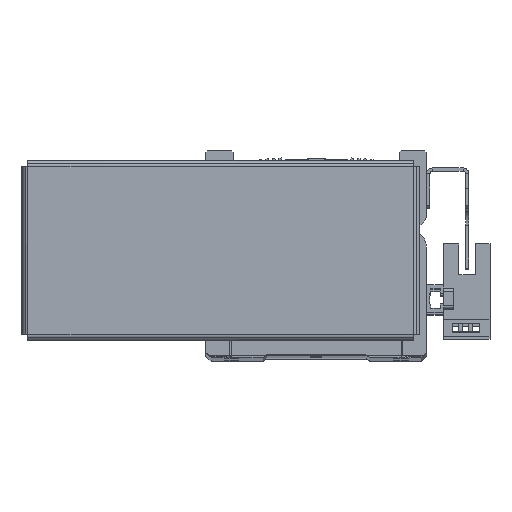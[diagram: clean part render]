
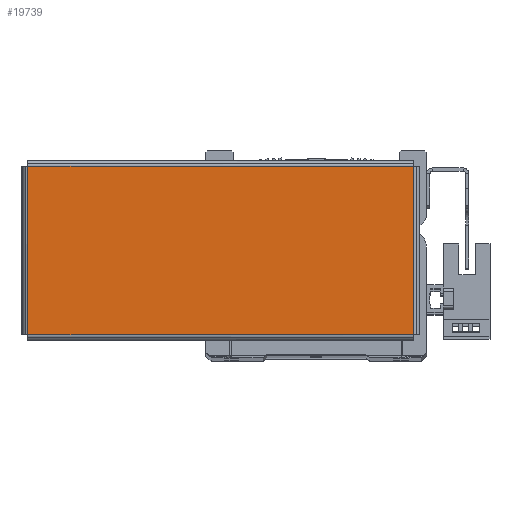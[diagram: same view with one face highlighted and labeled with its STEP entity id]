
A CAD part, top view. The second image highlights one B-rep face of the part: STEP entity #19739.
In plain terms, the highlighted planar face has unit normal (0, 0, 1) as drawn and (0, 0, -1) by its records, which use the part's own axes.
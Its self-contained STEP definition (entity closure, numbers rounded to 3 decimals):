
#360 = DIRECTION ( 'NONE',  ( 0., 0., 1. ) ) ;
#366 = PLANE ( 'NONE',  #42203 ) ;
#386 = CARTESIAN_POINT ( 'NONE',  ( 0., 0., -1. ) ) ;
#395 = DIRECTION ( 'NONE',  ( 1., 0., 0. ) ) ;
#2443 = VECTOR ( 'NONE', #3738, 1000. ) ;
#2458 = VECTOR ( 'NONE', #3693, 1000. ) ;
#2481 = LINE ( 'NONE', #3726, #2443 ) ;
#2483 = LINE ( 'NONE', #3705, #2458 ) ;
#2510 = VECTOR ( 'NONE', #3790, 1000. ) ;
#2530 = LINE ( 'NONE', #3789, #2510 ) ;
#2539 = VECTOR ( 'NONE', #3760, 1000. ) ;
#2554 = LINE ( 'NONE', #3734, #2539 ) ;
#3693 = DIRECTION ( 'NONE',  ( 0., -1., 0. ) ) ;
#3705 = CARTESIAN_POINT ( 'NONE',  ( 56.863, 24.793, -1. ) ) ;
#3726 = CARTESIAN_POINT ( 'NONE',  ( -56.863, -24.793, -1. ) ) ;
#3734 = CARTESIAN_POINT ( 'NONE',  ( -56.893, 24.763, -1. ) ) ;
#3738 = DIRECTION ( 'NONE',  ( 0., 1., 0. ) ) ;
#3760 = DIRECTION ( 'NONE',  ( 1., 0., 0. ) ) ;
#3789 = CARTESIAN_POINT ( 'NONE',  ( 56.893, -24.763, -1. ) ) ;
#3790 = DIRECTION ( 'NONE',  ( -1., 0., 0. ) ) ;
#7927 = VERTEX_POINT ( 'NONE', #36479 ) ;
#7969 = VERTEX_POINT ( 'NONE', #37833 ) ;
#7994 = VERTEX_POINT ( 'NONE', #37828 ) ;
#8093 = VERTEX_POINT ( 'NONE', #37914 ) ;
#19739 = ADVANCED_FACE ( 'NONE', ( #44434 ), #366, .F. ) ;
#23308 = ORIENTED_EDGE ( 'NONE', *, *, #30626, .T. ) ;
#23310 = ORIENTED_EDGE ( 'NONE', *, *, #30650, .T. ) ;
#23326 = ORIENTED_EDGE ( 'NONE', *, *, #30634, .T. ) ;
#23344 = ORIENTED_EDGE ( 'NONE', *, *, #30611, .T. ) ;
#29551 = EDGE_LOOP ( 'NONE', ( #23344, #23310, #23308, #23326 ) ) ;
#30611 = EDGE_CURVE ( 'NONE', #7969, #8093, #2483, .T. ) ;
#30626 = EDGE_CURVE ( 'NONE', #7927, #7994, #2481, .T. ) ;
#30634 = EDGE_CURVE ( 'NONE', #7994, #7969, #2554, .T. ) ;
#30650 = EDGE_CURVE ( 'NONE', #8093, #7927, #2530, .T. ) ;
#36479 = CARTESIAN_POINT ( 'NONE',  ( -56.863, -24.763, -1. ) ) ;
#37828 = CARTESIAN_POINT ( 'NONE',  ( -56.863, 24.763, -1. ) ) ;
#37833 = CARTESIAN_POINT ( 'NONE',  ( 56.863, 24.763, -1. ) ) ;
#37914 = CARTESIAN_POINT ( 'NONE',  ( 56.863, -24.763, -1. ) ) ;
#42203 = AXIS2_PLACEMENT_3D ( 'NONE', #386, #360, #395 ) ;
#44434 = FACE_OUTER_BOUND ( 'NONE', #29551, .T. ) ;
